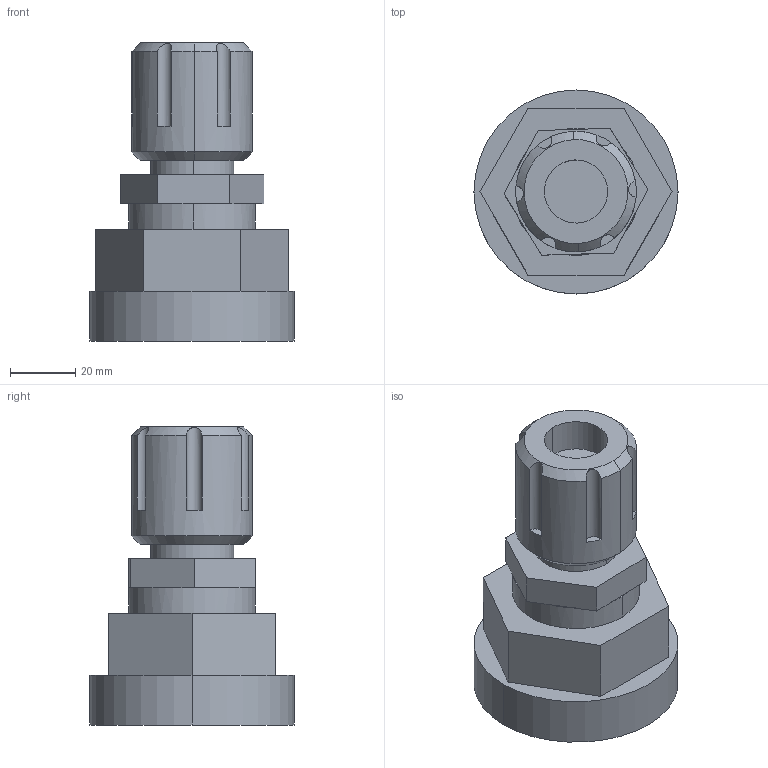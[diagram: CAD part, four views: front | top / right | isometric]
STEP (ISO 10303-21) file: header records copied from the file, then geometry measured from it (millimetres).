
FILE_DESCRIPTION (( 'STEP AP214' ), '1' );
FILE_NAME ('12-flaretek-top-out.STEP', '2012-12-03T20:53:01', ( '' ), ( '' ), 'SwSTEP 2.0', 'SolidWorks 2012', '' );
FILE_SCHEMA (( 'AUTOMOTIVE_DESIGN' ));
Length unit declared in the file: inch
Products named in the file (1): 12-flaretek-top-out
Bounding box: 62.33 x 62.33 x 91.03 mm (x, y, z)
Volume: 144527.3 mm3; surface area: 20947.7 mm2
Topology: 1 solids, 1 shells, 59 faces, 140 edges, 88 vertices
Faces by surface type: plane 37, cylinder 18, cone 4
Entity records: 2341 total; most frequent: CARTESIAN_POINT 448, DIRECTION 308, ORIENTED_EDGE 280, EDGE_CURVE 140, AXIS2_PLACEMENT_3D 116, VERTEX_POINT 88, VECTOR 76, LINE 76
